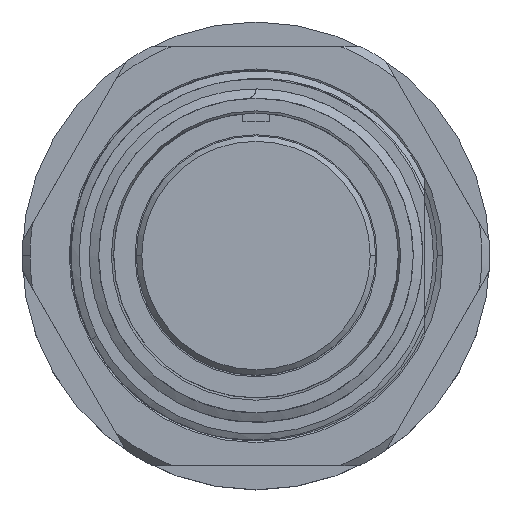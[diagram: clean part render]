
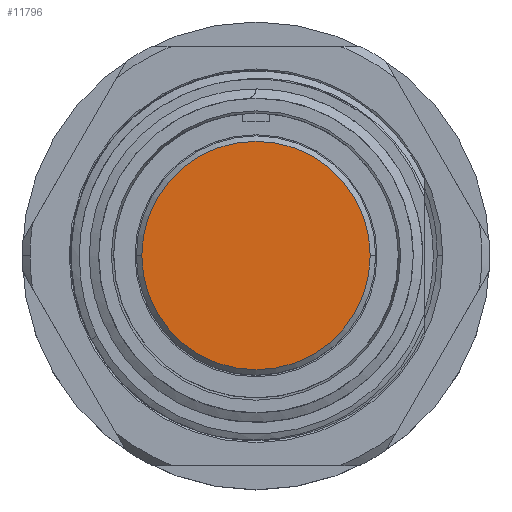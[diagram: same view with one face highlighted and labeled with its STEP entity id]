
A CAD part, top view. The second image highlights one B-rep face of the part: STEP entity #11796.
In plain terms, the highlighted planar face has unit normal (0, 0, 1).
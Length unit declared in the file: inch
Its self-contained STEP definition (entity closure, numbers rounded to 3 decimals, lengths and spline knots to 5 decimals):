
#485 = AXIS2_PLACEMENT_3D ( 'NONE', #7340, #11909, #3026 ) ;
#586 = CARTESIAN_POINT ( 'NONE',  ( 0., 0., -0.018 ) ) ;
#2153 = CIRCLE ( 'NONE', #485, 0.425 ) ;
#2812 = DIRECTION ( 'NONE',  ( 1., 0., 0. ) ) ;
#2899 = FACE_OUTER_BOUND ( 'NONE', #12455, .T. ) ;
#3026 = DIRECTION ( 'NONE',  ( 1., 0., 0. ) ) ;
#3761 = DIRECTION ( 'NONE',  ( 1., 0., 0. ) ) ;
#4743 = AXIS2_PLACEMENT_3D ( 'NONE', #586, #12947, #2812 ) ;
#5004 = AXIS2_PLACEMENT_3D ( 'NONE', #11922, #9428, #3761 ) ;
#7340 = CARTESIAN_POINT ( 'NONE',  ( 0., 0., -0.018 ) ) ;
#7421 = PLANE ( 'NONE',  #5004 ) ;
#9248 = EDGE_CURVE ( 'NONE', #14096, #10809, #11377, .T. ) ;
#9359 = EDGE_CURVE ( 'NONE', #10809, #14096, #2153, .T. ) ;
#9428 = DIRECTION ( 'NONE',  ( 0., 0., 1. ) ) ;
#9456 = ORIENTED_EDGE ( 'NONE', *, *, #9359, .T. ) ;
#10259 = CARTESIAN_POINT ( 'NONE',  ( 0.425, 0., -0.018 ) ) ;
#10809 = VERTEX_POINT ( 'NONE', #13804 ) ;
#11377 = CIRCLE ( 'NONE', #4743, 0.425 ) ;
#11711 = ORIENTED_EDGE ( 'NONE', *, *, #9248, .T. ) ;
#11796 = ADVANCED_FACE ( 'NONE', ( #2899 ), #7421, .T. ) ;
#11909 = DIRECTION ( 'NONE',  ( 0., 0., 1. ) ) ;
#11922 = CARTESIAN_POINT ( 'NONE',  ( 0., 0., -0.018 ) ) ;
#12455 = EDGE_LOOP ( 'NONE', ( #9456, #11711 ) ) ;
#12947 = DIRECTION ( 'NONE',  ( 0., 0., 1. ) ) ;
#13804 = CARTESIAN_POINT ( 'NONE',  ( -0.425, 0., -0.018 ) ) ;
#14096 = VERTEX_POINT ( 'NONE', #10259 ) ;
